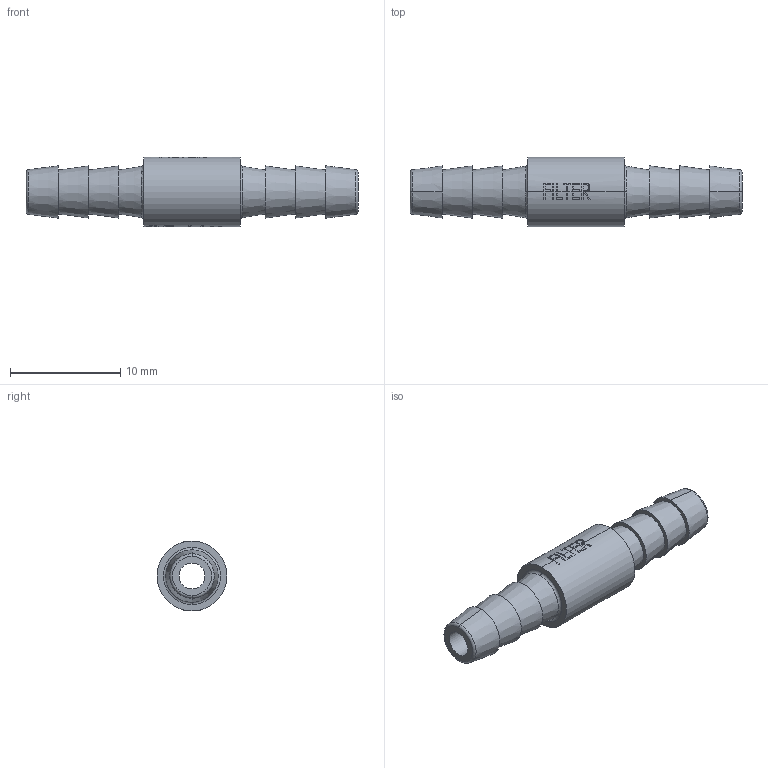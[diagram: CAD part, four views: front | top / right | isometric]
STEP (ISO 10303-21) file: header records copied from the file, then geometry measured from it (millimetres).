
FILE_DESCRIPTION(/* description */ ('SolidWorks IGES file using NURBS representation for surfaces '),/* implementation_level */ '2;1');
FILE_NAME(/* name */ 'K:\Normteile INVENTOR\Air-Logic\Filters\F-950-25-B85.IGS.ipt.stp',/* time_stamp */ '2020-05-27T10:39:40+02:00',/* author */ ('amarsh'),/* organization */ (''),/* preprocessor_version */ 'ST-DEVELOPER v18',/* originating_system */ 'Autodesk Inventor 2020',/* authorisation */ '');
FILE_SCHEMA (('AUTOMOTIVE_DESIGN { 1 0 10303 214 3 1 1 }'));
Length unit declared in the file: millimetre
Products named in the file (1): F-950-25-B85.IGS
Bounding box: 30.15 x 6.35 x 6.35 mm (x, y, z)
Volume: 468.4 mm3; surface area: 768.5 mm2
Topology: 1 solids, 1 shells, 167 faces, 476 edges, 320 vertices
Faces by surface type: plane 77, bspline 49, cylinder 23, cone 10, torus 8
Full cylindrical faces by diameter (mm): 2.36 x1
Entity records: 9284 total; most frequent: CARTESIAN_POINT 5045, ORIENTED_EDGE 952, DIRECTION 774, EDGE_CURVE 476, VERTEX_POINT 320, AXIS2_PLACEMENT_3D 277, LINE 220, VECTOR 220
